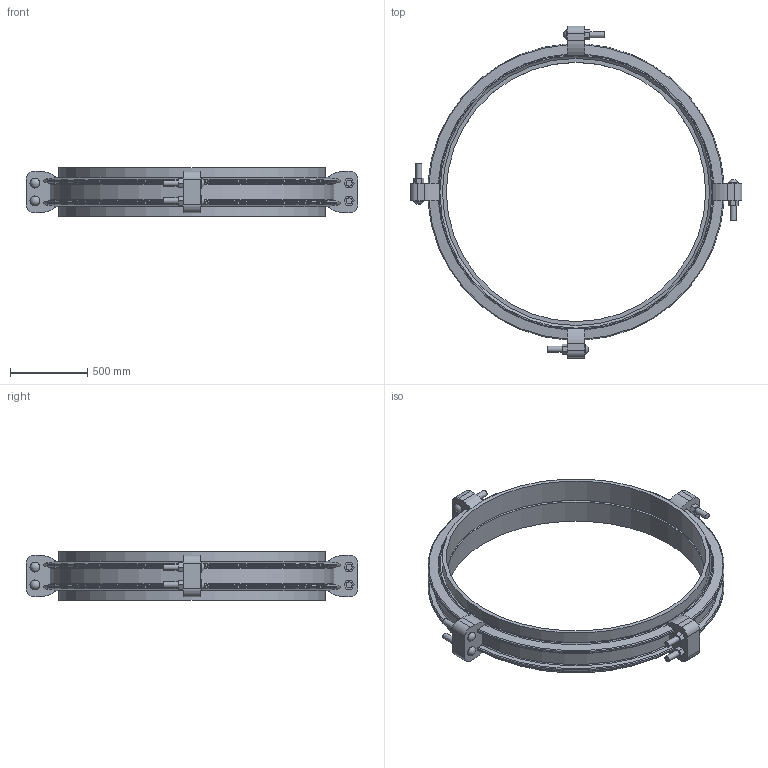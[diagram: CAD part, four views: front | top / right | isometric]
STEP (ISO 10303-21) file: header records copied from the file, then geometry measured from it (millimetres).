
FILE_DESCRIPTION(/* description */ ('VIC COUPLING FLEX STYLE W77 AGS VIC-RING ','CAx-IF Rec.Pracs.---Representation and Presentation of Product Manufacturing Information (PMI)---4.0---2014-10-13'),/* implementation_level */ '2;1');
FILE_NAME(/* name */ 'C:\Users\Vjadhav\AppData\Roaming\Autodesk\ApplicationPlugins\Victaulic.Temp\A52\Victaulic_Vic-Ring_Coupling Flexible_Style W77 (AGR)_68 (1700).stp',/* time_stamp */ '2021-12-20T11:07:21+06:00',/* author */ ('Vjadhav'),/* organization */ ('Victaulic'),/* preprocessor_version */ 'ST-DEVELOPER v17.2',/* originating_system */ 'Autodesk Inventor 2019',/* authorisation */ '');
FILE_SCHEMA (('AP242_MANAGED_MODEL_BASED_3D_ENGINEERING_MIM_LF { 1 0 10303 442 1 1 4 }'));
Length unit declared in the file: inch
Products named in the file (3): W77 VR-68.0; W77-VR-68.0; W77 VR-68.0_1
Assembly tree (3 placements, depth 2):
  W77 VR-68.0
    W77-VR-68.0
    W77 VR-68.0_1  x2
Bounding box: 2146.3 x 2146.3 x 316.74 mm (x, y, z)
Volume: 128069479.7 mm3; surface area: 8135817.3 mm2
Topology: 3 solids, 11 shells, 279 faces, 745 edges, 512 vertices
Faces by surface type: plane 138, cylinder 83, torus 32, cone 18, sphere 8
Full cylindrical faces by diameter (mm): 38.1 x16, 63.5 x8, 1676.4 x2, 1708.15 x1, 1727.2 x4
Entity records: 10061 total; most frequent: CARTESIAN_POINT 2672, ORIENTED_EDGE 1470, DIRECTION 1457, EDGE_CURVE 735, AXIS2_PLACEMENT_3D 537, VERTEX_POINT 504, LINE 383, VECTOR 383
